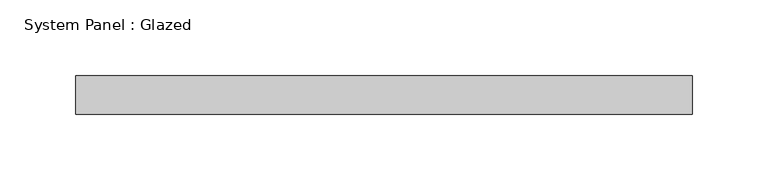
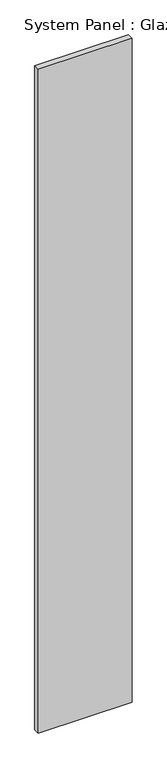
"""IFC4 building model written with IfcOpenShell, lengths in millimetres: plate geometry, System Panel : Glazed."""

from ifc_helpers import new_model, si_unit, origin, origin_with_axes, place, context, project, spatial, polyline, outline, extrude, source, transform, mapped, element, save


def system_panel_glazed_21cc01a4(model_context):
    return source(origin(), model_context, "Body", "SweptSolid", [
        extrude(outline(polyline([(203.7584884, -44.45), (-203.7584884, -44.45), (-203.7584884, -19.05), (203.7584884, -19.05), (203.7584884, -44.45)])), origin_with_axes(), (0.0, 0.0, 1.0), 3048.0),
    ])


if __name__ == "__main__":
    model = new_model("IFC4")
    model_context = context("Model", 3, world=origin())
    ifc_project = project(units=[si_unit("LENGTHUNIT", "METRE", prefix="MILLI")], contexts=[model_context])
    site = spatial("IfcSite", under=ifc_project)
    building = spatial("IfcBuilding", under=site)
    placement = place(None, origin())
    system_panel_glazed_shape = system_panel_glazed_21cc01a4(model_context)
    element("IfcPlate", 1, ObjectType="System Panel : Glazed", at=placement, inside=building, context=model_context, shape_type="MappedRepresentation", body=[
        mapped(system_panel_glazed_shape, transform((0.0, 0.0, 0.0), x_axis=(1.0, 0.0, 0.0), y_axis=(0.0, 1.0, 0.0), z_axis=(0.0, 0.0, 1.0))),
    ])
    save(model, "model.ifc")
